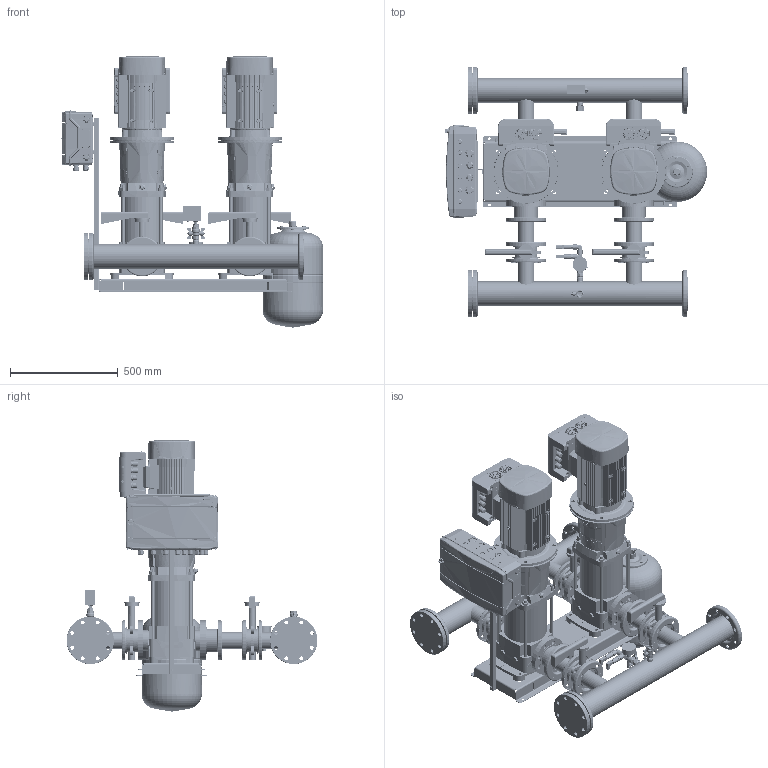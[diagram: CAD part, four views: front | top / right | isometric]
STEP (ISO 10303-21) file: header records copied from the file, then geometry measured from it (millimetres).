
FILE_DESCRIPTION(('CATIA V5 STEP Exchange','CAx-IF Rec.Pracs.--- Model Styling and Organization---1.4--- 2014-01-23','CAx-IF Rec.Pracs.---3D Tessellated Data Validation Properties---0.5---2014-09-14'),'2;1');
FILE_NAME('C:\Users\78432\YandexDisk\Drawings and 3D\3D Hydro Booster\Hydro-ME 3D\Hydro Models\Hydro ME 2 CRV32-xx\Hydro ME 2 CRVE32-3.stp','2023-09-20T13:26:20+00:00',('none'),('none'),'CATIA Version 5-6 Release 2019 SP6','CATIA V5 STEP AP242 v1','none');
FILE_SCHEMA(('AP242_MANAGED_MODEL_BASED_3D_ENGINEERING_MIM_LF {1 0 10303 442 1 1 4}'));
Length unit declared in the file: millimetre
Products named in the file (52): Hydro ME 2 CRVE32-3; 92051010; CRV32-3 set; CRV 32-3_A_DIN_5.5kW; Base; Flange.1; Flange.2; Sleeve; Pumphead; Staybolt.1; Staybolt.2; Staybolt.3; Staybolt.4; AirVent; Motor; Plug; Non-Return Valve DN65 cpl.; 92802786; 00id2586; Buttefly Valve DN65 cpl.; 92802749; 96619619; 91040447; 91070072; 99110036; SAJ PDH30 4-7,5kW; 97941447; 405801; 91041068; 91070074; 97941484; 99110038; 00ID6959; Holder and CP 18mod; 92878909; Control ME (18mod); 2 sensors + manometer cpl.; manometr 16 bar; RPD-I-G1_2; 9021-01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
Assembly tree (69 placements, depth 4):
  Hydro ME 2 CRVE32-3
    92051010
    CRV32-3 set  x2
      CRV 32-3_A_DIN_5.5kW
        Base
        Flange.1
        Flange.2
        Sleeve
        Pumphead
        Staybolt.1
        Staybolt.2
        Staybolt.3
        Staybolt.4
        AirVent
        Motor
        Plug
      Non-Return Valve DN65 cpl.
        92802786
        00id2586  x2
      Buttefly Valve DN65 cpl.
        92802749
        00id2586  x2
      96619619
        91040447
        91070072  x2
        99110036  x2
      SAJ PDH30 4-7,5kW
    97941447  x2
      405801
      91041068
      91070072
      91070074
      97941484
      99110036
      99110038
    00ID6959  x2
    Holder and CP 18mod
      92878909
      Control ME (18mod)
    2 sensors + manometer cpl.
      manometr 16 bar
      RPD-I-G1_2  x2
      9021-01
      2070 1/2-1/2
      _2020 1/2-1/2
      98594078
    Tank 24L cpl.
      DN20_FF_BF_47.300.20
      9021-03
    Relay cpl.
      Relay RD-2R
      DN20_FF_BF_47.300.20
      2530 3/4-1/2
      _2530 1/2-1/4
    91078139
  WAV-24(D140 1'')
Bounding box: 1216.82 x 1164.37 x 1265.07 mm (x, y, z)
Volume: 118328221.9 mm3; surface area: 11519416.5 mm2
Topology: 224 solids, 244 shells, 22179 faces, 64362 edges, 43442 vertices
Faces by surface type: plane 9678, cylinder 5391, bspline 5084, cone 1471, torus 454, sphere 101
Entity records: 622880 total; most frequent: CARTESIAN_POINT 313969, ORIENTED_EDGE 78951, EDGE_CURVE 40016, DIRECTION 36828, VERTEX_POINT 26846, VECTOR 17467, LINE 17467, EDGE_LOOP 15677
